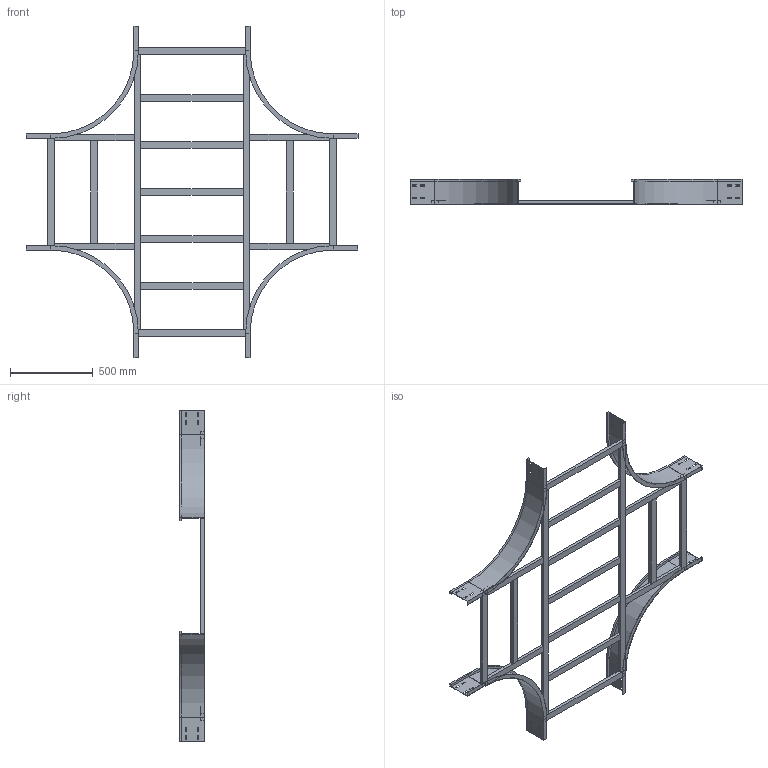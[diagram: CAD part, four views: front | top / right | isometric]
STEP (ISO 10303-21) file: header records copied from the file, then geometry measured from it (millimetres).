
FILE_DESCRIPTION (( 'STEP AP214' ), '1' );
FILE_NAME ('17J5F700.step', '2025-02-21T16:28:53', ( '' ), ( '' ), 'SwSTEP 2.0', 'SolidWorks 2023', '' );
FILE_SCHEMA (( 'AUTOMOTIVE_DESIGN' ));
Length unit declared in the file: millimetre
Products named in the file (7): 17J5F700; TRAVERSINO_LONG._R500+700; TRAVERSINO_INTERMEDIO_X_R500+700; LONGH.INTERNO 90°_H150_R500; TRAVERSINO_700; TRAVERSINO_VERT_R500; TRAVERSINO_COPPIA_700
Assembly tree (21 placements, depth 2):
  17J5F700
    LONGH.INTERNO 90°_H150_R500  x4
    TRAVERSINO_700  x4
    TRAVERSINO_LONG._R500+700  x2
    TRAVERSINO_INTERMEDIO_X_R500+700  x5
    TRAVERSINO_VERT_R500  x4
    TRAVERSINO_COPPIA_700  x2
Bounding box: 2000 x 150 x 2000 mm (x, y, z)
Volume: 12348597.2 mm3; surface area: 3200214.3 mm2
Topology: 21 solids, 21 shells, 334 faces, 812 edges, 520 vertices
Faces by surface type: plane 318, cylinder 16
Entity records: 2868 total; most frequent: CARTESIAN_POINT 460, DIRECTION 444, ORIENTED_EDGE 424, EDGE_CURVE 212, VECTOR 204, LINE 204, VERTEX_POINT 136, AXIS2_PLACEMENT_3D 120
